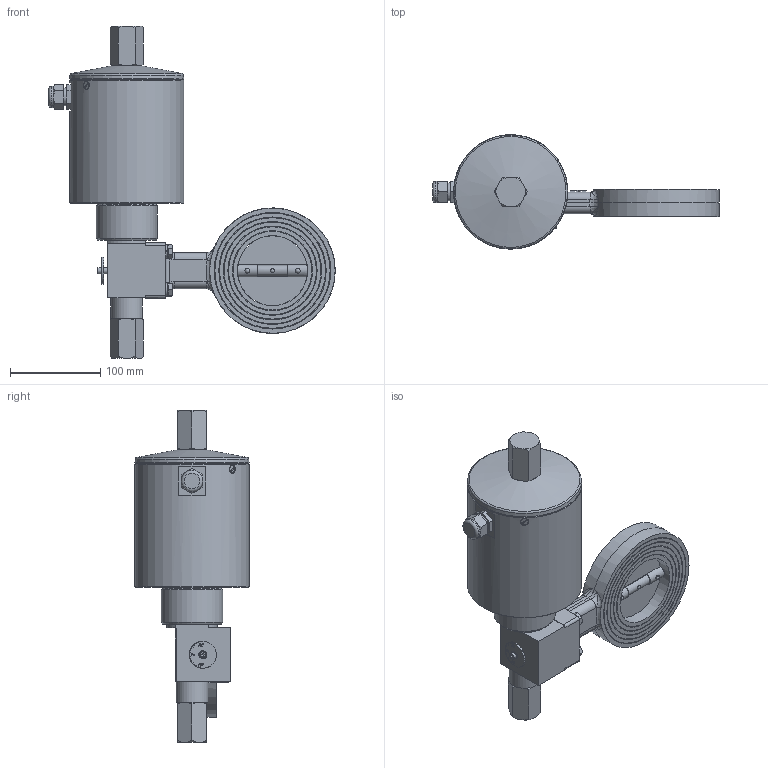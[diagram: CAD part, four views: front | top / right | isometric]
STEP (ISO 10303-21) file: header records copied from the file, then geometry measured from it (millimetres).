
FILE_DESCRIPTION((''),'2;1');
FILE_NAME('G:\CAD-Download\MRK\MRK Ro Ma\DN 80\MRK Ro Ma 30N-4.stp','2010-05-26T08:53:29',('da'),(''),'Autodesk Inventor 2008','Autodesk Inventor 2008','');
FILE_SCHEMA(('AUTOMOTIVE_DESIGN { 1 0 10303 214 1 1 1 1 }'));
Length unit declared in the file: millimetre
Products named in the file (1): MRK Ro Ma 30N-4
Bounding box: 318.51 x 127 x 368.88 mm (x, y, z)
Volume: 2754786.3 mm3; surface area: 193101 mm2
Topology: 1 solids, 1 shells, 603 faces, 1545 edges, 988 vertices
Faces by surface type: plane 369, bspline 87, cone 70, cylinder 64, torus 7, sphere 6
Full cylindrical faces by diameter (mm): 7 x2, 8 x4, 9 x1, 11.63 x4, 12 x2, 20 x1, 23.713 x1, 30 x1, 35 x1, 62 x1, 68 x1, 77.5 x1, 78 x1, 124 x1, 127 x1
Entity records: 21528 total; most frequent: CARTESIAN_POINT 7521, ORIENTED_EDGE 2918, DIRECTION 2483, EDGE_CURVE 1459, VERTEX_POINT 965, VECTOR 853, LINE 853, AXIS2_PLACEMENT_3D 815
